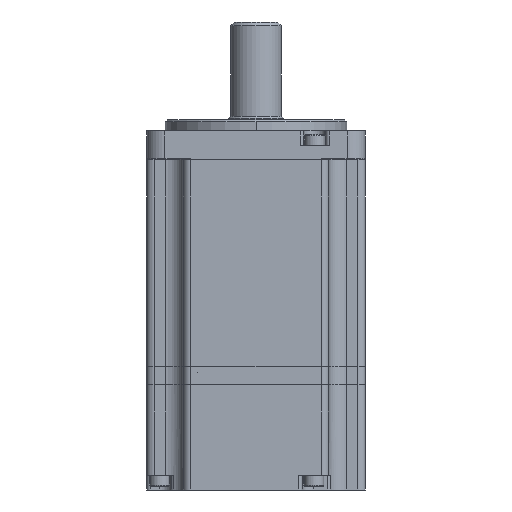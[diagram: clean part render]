
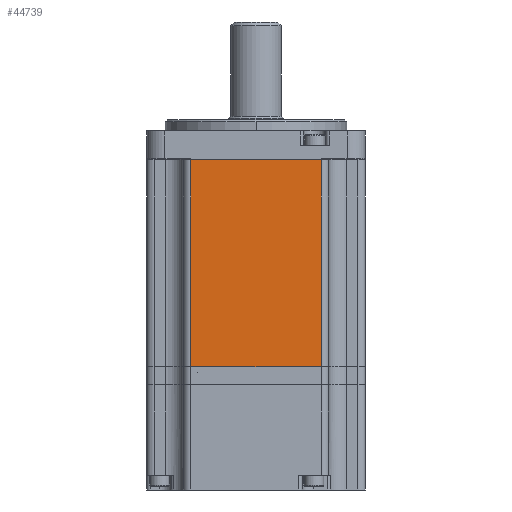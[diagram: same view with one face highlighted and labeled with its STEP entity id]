
A CAD part, front view. The second image highlights one B-rep face of the part: STEP entity #44739.
In plain terms, the highlighted planar face has unit normal (0, -1, 0).
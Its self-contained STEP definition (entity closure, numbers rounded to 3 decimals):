
#651 = VERTEX_POINT ( 'NONE', #11897 ) ;
#652 = VERTEX_POINT ( 'NONE', #11894 ) ;
#658 = VERTEX_POINT ( 'NONE', #11879 ) ;
#661 = VERTEX_POINT ( 'NONE', #11871 ) ;
#1382 = EDGE_CURVE ( 'NONE', #651, #652, #24200, .T. ) ;
#1397 = EDGE_CURVE ( 'NONE', #658, #661, #24222, .T. ) ;
#1419 = EDGE_CURVE ( 'NONE', #661, #652, #24254, .T. ) ;
#1420 = EDGE_CURVE ( 'NONE', #651, #658, #24256, .T. ) ;
#4694 = ORIENTED_EDGE ( 'NONE', *, *, #1397, .T. ) ;
#4695 = ORIENTED_EDGE ( 'NONE', *, *, #1419, .T. ) ;
#4696 = ORIENTED_EDGE ( 'NONE', *, *, #1382, .F. ) ;
#4697 = ORIENTED_EDGE ( 'NONE', *, *, #1420, .T. ) ;
#11871 = CARTESIAN_POINT ( 'NONE',  ( 18., -30.1, 0. ) ) ;
#11879 = CARTESIAN_POINT ( 'NONE',  ( -18., -30.1, 0. ) ) ;
#11894 = CARTESIAN_POINT ( 'NONE',  ( 18., -30.1, 57. ) ) ;
#11897 = CARTESIAN_POINT ( 'NONE',  ( -18., -30.1, 57. ) ) ;
#15717 = EDGE_LOOP ( 'NONE', ( #4694, #4695, #4696, #4697 ) ) ;
#17460 = AXIS2_PLACEMENT_3D ( 'NONE', #31823, #31829, #31830 ) ;
#24200 = LINE ( 'NONE', #24873, #24204 ) ;
#24204 = VECTOR ( 'NONE', #24874, 1000. ) ;
#24222 = LINE ( 'NONE', #24917, #24224 ) ;
#24224 = VECTOR ( 'NONE', #24912, 1000. ) ;
#24254 = LINE ( 'NONE', #24987, #24257 ) ;
#24256 = LINE ( 'NONE', #24990, #24259 ) ;
#24257 = VECTOR ( 'NONE', #24988, 1000. ) ;
#24259 = VECTOR ( 'NONE', #24993, 1000. ) ;
#24873 = CARTESIAN_POINT ( 'NONE',  ( -20., -30.1, 57. ) ) ;
#24874 = DIRECTION ( 'NONE',  ( 1., 0., 0. ) ) ;
#24912 = DIRECTION ( 'NONE',  ( 1., 0., 0. ) ) ;
#24917 = CARTESIAN_POINT ( 'NONE',  ( -20., -30.1, 0. ) ) ;
#24987 = CARTESIAN_POINT ( 'NONE',  ( 18., -30.1, 57. ) ) ;
#24988 = DIRECTION ( 'NONE',  ( 0., 0., 1. ) ) ;
#24990 = CARTESIAN_POINT ( 'NONE',  ( -18., -30.1, 57. ) ) ;
#24993 = DIRECTION ( 'NONE',  ( 0., 0., -1. ) ) ;
#30228 = FACE_OUTER_BOUND ( 'NONE', #15717, .T. ) ;
#31823 = CARTESIAN_POINT ( 'NONE',  ( -20., -30.1, 57. ) ) ;
#31827 = PLANE ( 'NONE',  #17460 ) ;
#31829 = DIRECTION ( 'NONE',  ( 0., 1., 0. ) ) ;
#31830 = DIRECTION ( 'NONE',  ( 0., 0., 1. ) ) ;
#44739 = ADVANCED_FACE ( 'NONE', ( #30228 ), #31827, .F. ) ;
